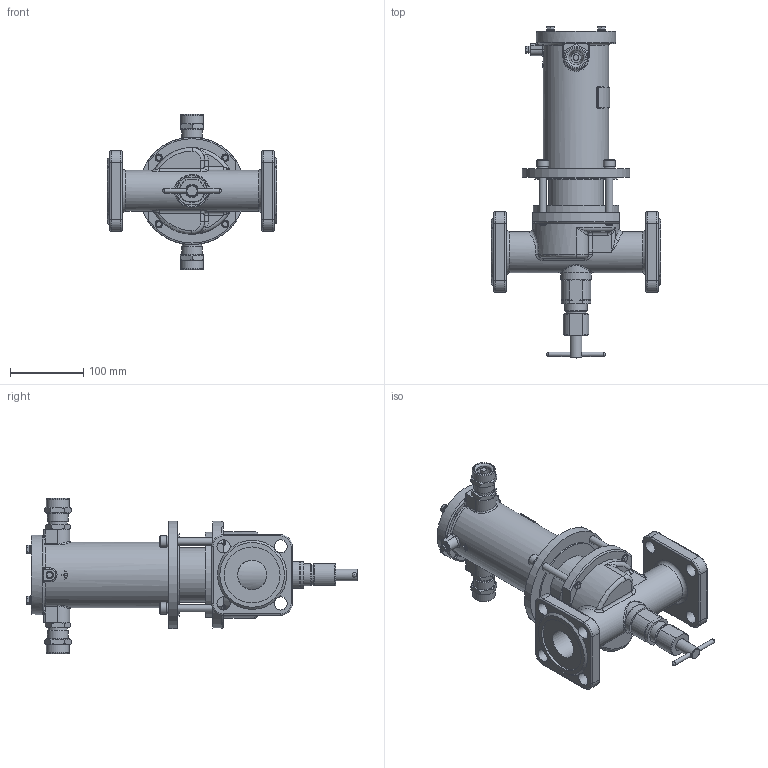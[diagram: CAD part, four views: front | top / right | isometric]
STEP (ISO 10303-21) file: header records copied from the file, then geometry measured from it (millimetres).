
FILE_DESCRIPTION(('STEP AP203'), '1');
FILE_NAME('ÑÅÍÑ DN40PN25-Â.stp', '2018-09-19T08:43:20', ('Îðëîâ Å.Â.'), ('ÎÎÎ ÍÏÏ Ñåíñîð'), 'ASCON STEP Converter 1.3', 'Kompas 3D', '');
FILE_SCHEMA(('CONFIG_CONTROL_DESIGN','SUPPORT_RESOURCE_SCHEMA'));
Length unit declared in the file: millimetre
Products named in the file (1): 40
Bounding box: 230 x 451.7 x 211 mm (x, y, z)
Volume: 1697108.4 mm3; surface area: 432703.7 mm2
Topology: 2 solids, 19 shells, 1985 faces, 5260 edges, 3395 vertices
Faces by surface type: cylinder 1012, plane 729, cone 127, torus 50, bspline 47, extrusion 16, sphere 4
Full cylindrical faces by diameter (mm): 3.5 x2, 4.134 x1, 4.917 x4, 5 x1, 6 x10, 6.5 x4, 8 x8, 8.2 x1, 10 x9, 11 x5, 12 x4, 13 x2, 16 x6, 17 x2, 18 x9, 20 x5, 22 x2, 22.376 x2, 23 x1, 23.5 x2, 24 x2, 24.5 x2, 26 x4, 26.376 x2, 27.8 x1, 28 x3, 28.5 x2, 30 x2, 31 x2, 40 x2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
Entity records: 77022 total; most frequent: CARTESIAN_POINT 26648, DIRECTION 10937, ORIENTED_EDGE 10462, EDGE_CURVE 5231, AXIS2_PLACEMENT_3D 4202, VERTEX_POINT 3395, VECTOR 2533, LINE 2517
